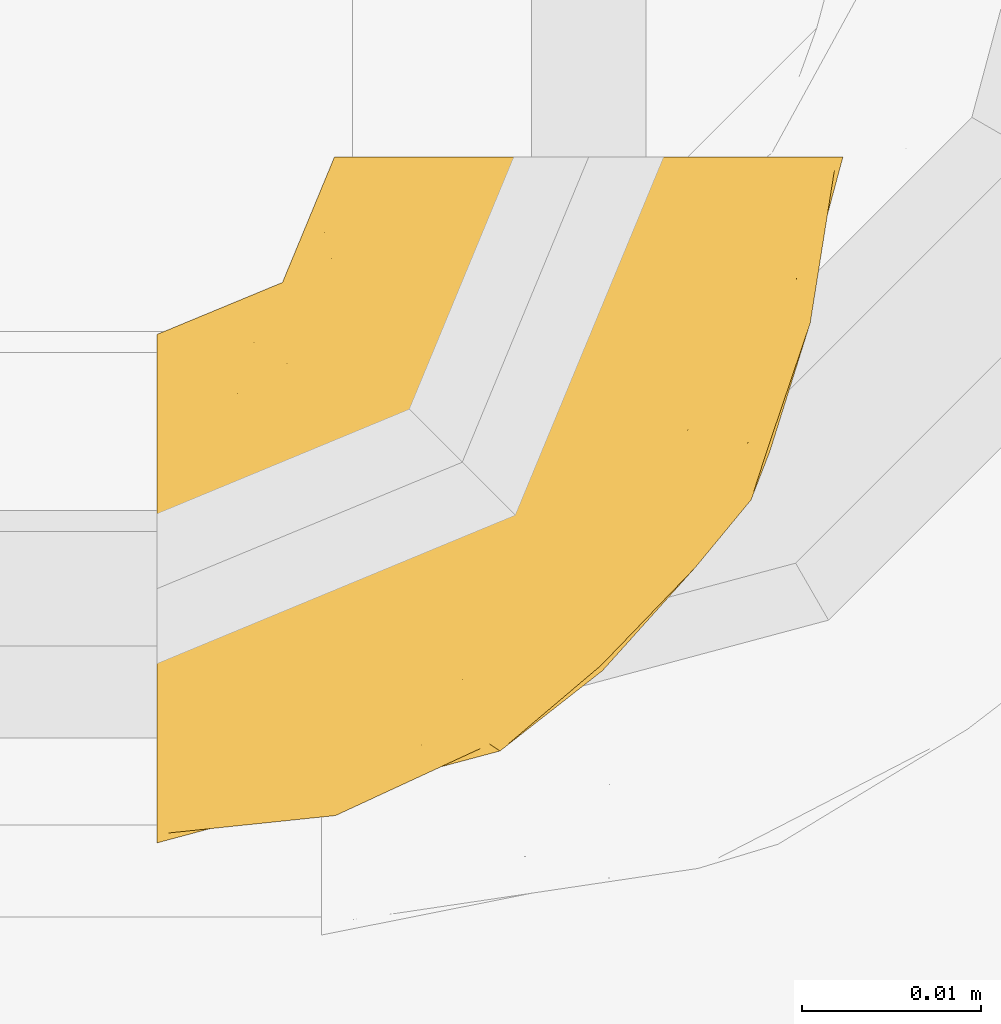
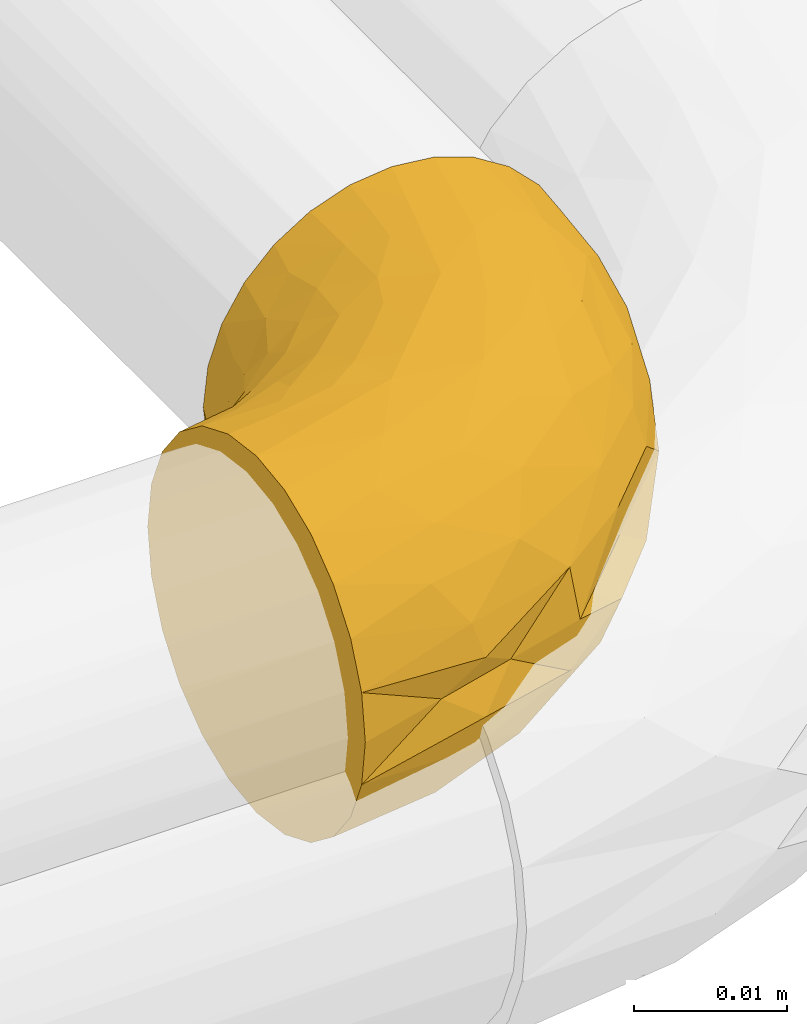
# One storey, part 13 of 30: 1 covering.
"""IFC2X3 building model written with IfcOpenShell, lengths in metres."""

from ifc_helpers import new_model, entity, si_unit, converted_unit, derived_unit, direction, frame, origin, place, context, subcontext, project, spatial, faceted_brep, material, type_object, element, save


model = new_model("IFC2X3")

# Units and contexts
model_context = context("Model", 3, precision=1e-05, world=origin(), true_north=direction((6.123031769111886e-17, 1.0)))
body_context = subcontext(model_context, "Body", "Model", "MODEL_VIEW")
ifc_project = project(units=[si_unit("LENGTHUNIT", "METRE"), si_unit("AREAUNIT", "SQUARE_METRE"), si_unit("VOLUMEUNIT", "CUBIC_METRE"), converted_unit("PLANEANGLEUNIT", "DEGREE", entity("IfcPlaneAngleMeasure", 0.017453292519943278), si_unit("PLANEANGLEUNIT", "RADIAN"), dimensions=[0, 0, 0, 0, 0, 0, 0]), si_unit("MASSUNIT", "GRAM", prefix="KILO"), derived_unit("MASSDENSITYUNIT", [(si_unit("MASSUNIT", "GRAM", prefix="KILO"), 1), (si_unit("LENGTHUNIT", "METRE"), -3)]), derived_unit("IONCONCENTRATIONUNIT", [(si_unit("MASSUNIT", "GRAM", prefix="KILO"), 1), (si_unit("LENGTHUNIT", "METRE"), -3)]), derived_unit("MOMENTOFINERTIAUNIT", [(si_unit("LENGTHUNIT", "METRE"), 4)]), si_unit("TIMEUNIT", "SECOND"), si_unit("FREQUENCYUNIT", "HERTZ"), si_unit("THERMODYNAMICTEMPERATUREUNIT", "DEGREE_CELSIUS"), derived_unit("THERMALTRANSMITTANCEUNIT", [(si_unit("MASSUNIT", "GRAM", prefix="KILO"), 1), (si_unit("THERMODYNAMICTEMPERATUREUNIT", "KELVIN"), -1), (si_unit("TIMEUNIT", "SECOND"), -3)]), derived_unit("THERMALCONDUCTANCEUNIT", [(si_unit("MASSUNIT", "GRAM", prefix="KILO"), 1), (si_unit("THERMODYNAMICTEMPERATUREUNIT", "KELVIN"), -1), (si_unit("TIMEUNIT", "SECOND"), -3), (si_unit("LENGTHUNIT", "METRE"), 1)]), derived_unit("VOLUMETRICFLOWRATEUNIT", [(si_unit("LENGTHUNIT", "METRE", prefix="DECI"), 3), (si_unit("TIMEUNIT", "SECOND"), -1)]), derived_unit("MASSFLOWRATEUNIT", [(si_unit("MASSUNIT", "GRAM", prefix="KILO"), 1), (si_unit("TIMEUNIT", "SECOND"), -1)]), derived_unit("ROTATIONALFREQUENCYUNIT", [(si_unit("TIMEUNIT", "SECOND"), -1)]), si_unit("ELECTRICCURRENTUNIT", "AMPERE"), si_unit("ELECTRICVOLTAGEUNIT", "VOLT"), si_unit("POWERUNIT", "WATT"), si_unit("FORCEUNIT", "NEWTON", prefix="KILO"), si_unit("ILLUMINANCEUNIT", "LUX"), si_unit("LUMINOUSFLUXUNIT", "LUMEN"), si_unit("LUMINOUSINTENSITYUNIT", "CANDELA"), si_unit("ENERGYUNIT", "JOULE"), derived_unit("USERDEFINED", [(si_unit("MASSUNIT", "GRAM", prefix="KILO"), -1), (si_unit("LENGTHUNIT", "METRE"), -2), (si_unit("TIMEUNIT", "SECOND"), 3), (si_unit("LUMINOUSFLUXUNIT", "LUMEN"), 1)]), derived_unit("USERDEFINED", [(si_unit("MASSUNIT", "GRAM", prefix="KILO"), 1), (si_unit("TIMEUNIT", "SECOND"), -3), (si_unit("LENGTHUNIT", "METRE"), 3), (si_unit("ELECTRICCURRENTUNIT", "AMPERE"), -2)]), derived_unit("SOUNDPOWERUNIT", [(si_unit("MASSUNIT", "GRAM", prefix="KILO"), 1), (si_unit("TIMEUNIT", "SECOND"), -3), (si_unit("LENGTHUNIT", "METRE"), 2)]), derived_unit("SOUNDPRESSUREUNIT", [(si_unit("MASSUNIT", "GRAM", prefix="KILO"), 1), (si_unit("LENGTHUNIT", "METRE"), -1), (si_unit("TIMEUNIT", "SECOND"), -2)]), derived_unit("LINEARVELOCITYUNIT", [(si_unit("LENGTHUNIT", "METRE"), 1), (si_unit("TIMEUNIT", "SECOND"), -1)]), si_unit("PRESSUREUNIT", "PASCAL"), derived_unit("USERDEFINED", [(si_unit("MASSUNIT", "GRAM", prefix="KILO"), 1), (si_unit("LENGTHUNIT", "METRE"), -2), (si_unit("TIMEUNIT", "SECOND"), -2)]), derived_unit("LINEARFORCEUNIT", [(si_unit("MASSUNIT", "GRAM", prefix="KILO"), 1), (si_unit("TIMEUNIT", "SECOND"), -2)]), derived_unit("PLANARFORCEUNIT", [(si_unit("MASSUNIT", "GRAM", prefix="KILO"), 1), (si_unit("LENGTHUNIT", "METRE"), -1), (si_unit("TIMEUNIT", "SECOND"), -2)]), derived_unit("SPECIFICHEATCAPACITYUNIT", [(si_unit("THERMODYNAMICTEMPERATUREUNIT", "KELVIN"), -1), (si_unit("LENGTHUNIT", "METRE"), 2), (si_unit("TIMEUNIT", "SECOND"), -2)]), derived_unit("HEATFLUXDENSITYUNIT", [(si_unit("MASSUNIT", "GRAM", prefix="KILO"), 1), (si_unit("TIMEUNIT", "SECOND"), -3)]), derived_unit("HEATINGVALUEUNIT", [(si_unit("LENGTHUNIT", "METRE"), 2), (si_unit("TIMEUNIT", "SECOND"), -2)]), derived_unit("VAPORPERMEABILITYUNIT", [(si_unit("LENGTHUNIT", "METRE"), -1), (si_unit("TIMEUNIT", "SECOND"), 1)]), derived_unit("DYNAMICVISCOSITYUNIT", [(si_unit("MASSUNIT", "GRAM", prefix="KILO"), 1), (si_unit("TIMEUNIT", "SECOND"), -1), (si_unit("LENGTHUNIT", "METRE"), -1)]), derived_unit("THERMALEXPANSIONCOEFFICIENTUNIT", [(si_unit("THERMODYNAMICTEMPERATUREUNIT", "KELVIN"), -1)]), derived_unit("MODULUSOFELASTICITYUNIT", [(si_unit("MASSUNIT", "GRAM", prefix="KILO"), 1), (si_unit("LENGTHUNIT", "METRE"), -1), (si_unit("TIMEUNIT", "SECOND"), -2)]), derived_unit("ISOTHERMALMOISTURECAPACITYUNIT", [(si_unit("MASSUNIT", "GRAM", prefix="KILO"), -1), (si_unit("LENGTHUNIT", "METRE"), 3)]), derived_unit("MOISTUREDIFFUSIVITYUNIT", [(si_unit("TIMEUNIT", "SECOND"), -1), (si_unit("LENGTHUNIT", "METRE"), 2)]), derived_unit("MASSPERLENGTHUNIT", [(si_unit("MASSUNIT", "GRAM", prefix="KILO"), 1), (si_unit("LENGTHUNIT", "METRE"), -1)]), derived_unit("THERMALRESISTANCEUNIT", [(si_unit("MASSUNIT", "GRAM", prefix="KILO"), -1), (si_unit("TIMEUNIT", "SECOND"), 3), (si_unit("THERMODYNAMICTEMPERATUREUNIT", "KELVIN"), 1)]), derived_unit("ACCELERATIONUNIT", [(si_unit("LENGTHUNIT", "METRE"), 1), (si_unit("TIMEUNIT", "SECOND"), -2)]), derived_unit("ANGULARVELOCITYUNIT", [(si_unit("TIMEUNIT", "SECOND"), -1), (si_unit("PLANEANGLEUNIT", "RADIAN"), 1)]), derived_unit("LINEARSTIFFNESSUNIT", [(si_unit("MASSUNIT", "GRAM", prefix="KILO"), 1), (si_unit("TIMEUNIT", "SECOND"), -2)]), derived_unit("WARPINGCONSTANTUNIT", [(si_unit("LENGTHUNIT", "METRE"), 6)]), derived_unit("LINEARMOMENTUNIT", [(si_unit("MASSUNIT", "GRAM", prefix="KILO"), 1), (si_unit("LENGTHUNIT", "METRE"), 1), (si_unit("TIMEUNIT", "SECOND"), -2)]), derived_unit("TORQUEUNIT", [(si_unit("MASSUNIT", "GRAM", prefix="KILO"), 1), (si_unit("LENGTHUNIT", "METRE"), 2), (si_unit("TIMEUNIT", "SECOND"), -2)])], contexts=[model_context])

# Site, building, storey
site_placement = place(None, origin())
site = spatial("IfcSite", under=ifc_project, at=site_placement, Name="Default", CompositionType="ELEMENT")
building_placement = place(site_placement, origin())
building = spatial("IfcBuilding", under=site, at=building_placement, CompositionType="ELEMENT")
storey_placement = place(building_placement, origin())
storey = spatial("IfcBuildingStorey", under=building, at=storey_placement, Name="Niveau 0", CompositionType="ELEMENT", Elevation=-1.949160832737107e-14)

# Covering
ifc_material = material(Name="Matériau du rendu 255-255-255")
covering_type = type_object("IfcCoveringType", Name="Isolation des canalisations:Par défaut", PredefinedType="INSULATION")
covering_placement = place(storey_placement, frame((-19.88885967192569, 1.3612578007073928, -0.41579527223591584)))
element("IfcCovering", 1, at=covering_placement, inside=storey, type_object=covering_type, material=ifc_material, Name="Isolation des canalisations:Par défaut", ObjectType="Isolation des canalisations:Par défaut", PredefinedType="INSULATION", context=body_context, shape_type="Brep", body=[
    faceted_brep([(0.02885664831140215, 0.03989527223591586, 0.029638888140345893), (0.031858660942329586, 0.03989527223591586, 0.028587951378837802), (0.03455099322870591, 0.03989527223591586, 0.02689555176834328), (0.03679892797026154, 0.03989527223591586, 0.02464675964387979), (0.03849001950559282, 0.03989527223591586, 0.021954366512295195), (0.039539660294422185, 0.03989527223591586, 0.018953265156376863), (0.03989527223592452, 0.03989527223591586, 0.015795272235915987), (0.03953888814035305, 0.03989527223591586, 0.012633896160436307), (0.038487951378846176, 0.03989527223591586, 0.009631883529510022), (0.036795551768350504, 0.03989527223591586, 0.006939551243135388), (0.0345467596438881, 0.03989527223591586, 0.00469161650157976), (0.03185436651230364, 0.03989527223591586, 0.0030005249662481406), (0.028853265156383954, 0.03989527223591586, 0.001950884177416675), (0.025695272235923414, 0.03989527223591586, 0.0015952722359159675), (0.022533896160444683, 0.03989527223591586, 0.001951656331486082), (0.019531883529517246, 0.03989527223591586, 0.0030025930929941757), (0.016839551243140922, 0.03989527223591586, 0.0046949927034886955), (0.014591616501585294, 0.03989527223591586, 0.006943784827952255), (0.01290052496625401, 0.03989527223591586, 0.009636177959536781), (0.011850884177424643, 0.03989527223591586, 0.012637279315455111), (0.011495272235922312, 0.03989527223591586, 0.015795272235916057), (0.01185165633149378, 0.03989527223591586, 0.01895664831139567), (0.012902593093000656, 0.03989527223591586, 0.021958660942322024), (0.014594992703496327, 0.03989527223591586, 0.024650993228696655), (0.016843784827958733, 0.03989527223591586, 0.026898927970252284), (0.019536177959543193, 0.03989527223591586, 0.028590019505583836), (0.02253727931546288, 0.03989527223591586, 0.029639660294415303), (0.025695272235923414, 0.03989527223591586, 0.02999527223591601), (0.0015952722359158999, 0.029511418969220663, 0.012120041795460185), (0.0015952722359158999, 0.028092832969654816, 0.008695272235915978), (0.0015952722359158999, 0.025836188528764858, 0.005754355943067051), (0.0015952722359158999, 0.02289527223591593, 0.0034977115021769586), (0.0015952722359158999, 0.019470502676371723, 0.002079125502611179), (0.0015952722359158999, 0.01579527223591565, 0.0015952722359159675), (0.0015952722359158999, 0.012120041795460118, 0.002079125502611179), (0.0015952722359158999, 0.00869527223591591, 0.0034977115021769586), (0.0015952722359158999, 0.005754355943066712, 0.005754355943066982), (0.0015952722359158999, 0.0034977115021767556, 0.008695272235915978), (0.0015952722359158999, 0.0020791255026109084, 0.012120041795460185), (0.0015952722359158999, 0.0015952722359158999, 0.015795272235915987), (0.0015952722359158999, 0.0020791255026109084, 0.019470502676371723), (0.0015952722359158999, 0.0034977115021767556, 0.02289527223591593), (0.0015952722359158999, 0.005754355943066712, 0.025836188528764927), (0.0015952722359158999, 0.00869527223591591, 0.02809283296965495), (0.0015952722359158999, 0.012120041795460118, 0.02951141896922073), (0.0015952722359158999, 0.01579527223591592, 0.02999527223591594), (0.0015952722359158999, 0.019470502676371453, 0.02951141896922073), (0.0015952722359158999, 0.02289527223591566, 0.028092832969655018), (0.0015952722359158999, 0.025836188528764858, 0.025836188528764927), (0.0015952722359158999, 0.028092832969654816, 0.022895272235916), (0.0015952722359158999, 0.029511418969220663, 0.019470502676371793), (0.0015952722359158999, 0.02999527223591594, 0.015795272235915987), (0.02704820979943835, 0.031466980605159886, 0.02973387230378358), (0.01155834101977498, 0.0031203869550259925, 0.018166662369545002), (0.008375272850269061, 0.003411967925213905, 0.015795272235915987), (0.01456027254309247, 0.005069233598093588, 0.015795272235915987), (0.014682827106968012, 0.011886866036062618, 0.028252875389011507), (0.010357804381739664, 0.007682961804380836, 0.026540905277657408), (0.01863458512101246, 0.010723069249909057, 0.026180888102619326), (0.024053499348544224, 0.024625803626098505, 0.029662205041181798), (0.022466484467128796, 0.027845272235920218, 0.02999527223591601), (0.0380723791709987, 0.030629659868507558, 0.020088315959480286), (0.03458658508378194, 0.02392756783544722, 0.022434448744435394), (0.03564178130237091, 0.02345906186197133, 0.019507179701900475), (0.020408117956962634, 0.018688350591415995, 0.029344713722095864), (0.018055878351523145, 0.023434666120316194, 0.02999527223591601), (0.01636472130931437, 0.0070691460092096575, 0.023549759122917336), (0.010797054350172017, 0.0036578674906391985, 0.02080360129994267), (0.020172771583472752, 0.0071057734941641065, 0.019923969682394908), (0.0074916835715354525, 0.010332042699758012, 0.02864407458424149), (0.010237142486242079, 0.014222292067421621, 0.029677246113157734), (0.02558294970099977, 0.012450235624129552, 0.02280278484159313), (0.013645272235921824, 0.019024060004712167, 0.02999527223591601), (0.010976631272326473, 0.0183089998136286, 0.02999527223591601), (0.008307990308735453, 0.017593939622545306, 0.02999527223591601), (0.007620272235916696, 0.017409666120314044, 0.02999527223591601), (0.0049516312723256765, 0.01669460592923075, 0.02999527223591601), (0.025175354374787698, 0.02208875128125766, 0.02890854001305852), (0.021556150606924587, 0.01575171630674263, 0.028018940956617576), (0.026742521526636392, 0.020432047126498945, 0.027726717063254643), (0.03307723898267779, 0.03292603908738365, 0.027427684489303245), (0.034991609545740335, 0.030551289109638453, 0.025267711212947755), (0.0372977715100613, 0.03305521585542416, 0.02297391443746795), (0.03642131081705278, 0.02693027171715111, 0.015795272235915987), (0.03039575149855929, 0.03354339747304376, 0.0289314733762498), (0.02873854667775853, 0.026409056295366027, 0.028565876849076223), (0.008485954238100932, 0.004907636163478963, 0.024042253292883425), (0.02479593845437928, 0.03653891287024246, 0.02999527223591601), (0.02408087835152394, 0.0338702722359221, 0.02999527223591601), (0.023896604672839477, 0.033182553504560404, 0.02999527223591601), (0.023181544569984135, 0.03051391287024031, 0.02999527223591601), (0.0312190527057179, 0.024636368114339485, 0.02659257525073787), (0.030558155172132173, 0.019588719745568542, 0.024430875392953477), (0.03807857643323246, 0.03311527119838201, 0.015795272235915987), (0.025554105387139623, 0.016105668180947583, 0.02619996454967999), (0.02775465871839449, 0.01373588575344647, 0.015795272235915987), (0.03476404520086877, 0.02074527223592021, 0.015795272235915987), (0.031643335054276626, 0.016963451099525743, 0.019534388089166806), (0.02074527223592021, 0.0067264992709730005, 0.015795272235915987), (0.02639706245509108, 0.011513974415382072, 0.019908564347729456), (0.031308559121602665, 0.01814369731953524, 0.02209913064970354), (0.01585057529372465, 0.02122936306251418, 0.02999527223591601), (0.02026118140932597, 0.025639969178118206, 0.02999527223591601), (0.019055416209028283, 0.030232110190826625, 0.029377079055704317), (0.01941299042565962, 0.03504783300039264, 0.0288294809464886), (0.0163241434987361, 0.033347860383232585, 0.027539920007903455), (0.01008373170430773, 0.0206006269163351, 0.029670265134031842), (0.005334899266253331, 0.01990237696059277, 0.029488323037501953), (0.006124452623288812, 0.026696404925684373, 0.025730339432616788), (0.008851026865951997, 0.028391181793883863, 0.02535629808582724), (0.00699704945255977, 0.02955694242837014, 0.022650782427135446), (0.011972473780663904, 0.025886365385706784, 0.028333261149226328), (0.012855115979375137, 0.02249376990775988, 0.029588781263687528), (0.015604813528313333, 0.025039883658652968, 0.02950996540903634), (0.003990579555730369, 0.028891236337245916, 0.021863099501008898), (0.006747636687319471, 0.021581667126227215, 0.029057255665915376), (0.00477823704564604, 0.024031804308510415, 0.027581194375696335), (0.007441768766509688, 0.031378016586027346, 0.01926640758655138), (0.008595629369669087, 0.0328949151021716, 0.015795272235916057), (0.005095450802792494, 0.03144509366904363, 0.015795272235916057), (0.009650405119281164, 0.03317880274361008, 0.01983888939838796), (0.022275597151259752, 0.036552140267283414, 0.029641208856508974), (0.010954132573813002, 0.03568980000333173, 0.018973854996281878), (0.011348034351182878, 0.03423455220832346, 0.02189433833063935), (0.012210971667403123, 0.03722732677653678, 0.021143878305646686), (0.01382361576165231, 0.03578073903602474, 0.024527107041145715), (0.01204534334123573, 0.03241002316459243, 0.024465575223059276), (0.009717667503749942, 0.031437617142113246, 0.022761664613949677), (0.01625427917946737, 0.03692594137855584, 0.026659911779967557), (0.021842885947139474, 0.03340468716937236, 0.02970888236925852), (0.004526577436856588, 0.030103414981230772, 0.018798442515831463), (0.010045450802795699, 0.036395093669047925, 0.015795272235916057), (0.015405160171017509, 0.028851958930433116, 0.028462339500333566), (0.01410895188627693, 0.031813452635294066, 0.0266090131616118), (0.008820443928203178, 0.025603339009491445, 0.02746848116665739), (0.008460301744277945, 0.02326573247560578, 0.028613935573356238), (0.01778048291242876, 0.027264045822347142, 0.02953936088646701), (0.011880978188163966, 0.029734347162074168, 0.026220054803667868), (0.009715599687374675, 0.031438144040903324, 0.008832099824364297), (0.007441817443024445, 0.03137796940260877, 0.012323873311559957), (0.009649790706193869, 0.03318033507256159, 0.011756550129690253), (0.024795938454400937, 0.036538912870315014, 0.0015952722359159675), (0.0048062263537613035, 0.02987116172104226, 0.011626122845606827), (0.0109766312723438, 0.01830899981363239, 0.0015952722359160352), (0.010083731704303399, 0.020600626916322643, 0.0019202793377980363), (0.013645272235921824, 0.019024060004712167, 0.0015952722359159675), (0.004199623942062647, 0.028677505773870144, 0.009216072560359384), (0.005334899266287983, 0.01990237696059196, 0.002102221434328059), (0.0049516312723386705, 0.016694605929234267, 0.0015952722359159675), (0.01187705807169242, 0.02973849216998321, 0.005375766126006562), (0.015398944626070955, 0.028856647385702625, 0.003132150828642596), (0.011966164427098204, 0.025891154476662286, 0.0032613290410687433), (0.008460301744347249, 0.023265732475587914, 0.002976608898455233), (0.006747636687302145, 0.02158166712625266, 0.002533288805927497), (0.0047782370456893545, 0.024031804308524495, 0.0040093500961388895), (0.006123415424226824, 0.026696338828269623, 0.005860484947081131), (0.008848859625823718, 0.028391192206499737, 0.006235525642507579), (0.006993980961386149, 0.029555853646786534, 0.008940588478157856), (0.012209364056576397, 0.03722818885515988, 0.010451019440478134), (0.01095411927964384, 0.03569117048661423, 0.012619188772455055), (0.019407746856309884, 0.03504891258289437, 0.0027633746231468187), (0.022272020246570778, 0.036550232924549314, 0.0019500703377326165), (0.013820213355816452, 0.03578262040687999, 0.007068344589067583), (0.02408087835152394, 0.0338702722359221, 0.0015952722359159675), (0.02389660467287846, 0.03318255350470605, 0.0015952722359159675), (0.01905004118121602, 0.030228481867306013, 0.0022143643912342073), (0.016318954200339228, 0.03335039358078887, 0.004054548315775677), (0.016249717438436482, 0.036927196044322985, 0.004934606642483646), (0.01134650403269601, 0.03423654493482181, 0.00970109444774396), (0.01204243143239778, 0.03241284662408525, 0.0071301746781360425), (0.008816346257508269, 0.025602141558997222, 0.004122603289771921), (0.012859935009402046, 0.02249765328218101, 0.0020019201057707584), (0.02318154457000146, 0.030513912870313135, 0.0015952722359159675), (0.022466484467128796, 0.027845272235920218, 0.0015952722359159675), (0.021177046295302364, 0.031866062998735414, 0.0019021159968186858), (0.01410454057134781, 0.03181664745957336, 0.004986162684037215), (0.017767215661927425, 0.02727960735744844, 0.002056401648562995), (0.018055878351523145, 0.023434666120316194, 0.0015952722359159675), (0.01560782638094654, 0.025054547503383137, 0.0020828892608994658), (0.02026118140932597, 0.025639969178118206, 0.0015952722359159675), (0.01585057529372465, 0.02122936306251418, 0.0015952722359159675), (0.008307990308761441, 0.017593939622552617, 0.0015952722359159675), (0.007620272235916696, 0.017409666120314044, 0.0015952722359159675), (0.010356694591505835, 0.00768274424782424, 0.005049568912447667), (0.014679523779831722, 0.011885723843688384, 0.003337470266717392), (0.018634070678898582, 0.010723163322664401, 0.005409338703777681), (0.0330731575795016, 0.032926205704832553, 0.0041600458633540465), (0.010237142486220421, 0.014222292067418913, 0.0019132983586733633), (0.025592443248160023, 0.012458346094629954, 0.008788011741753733), (0.03164297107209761, 0.0169638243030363, 0.01205426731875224), (0.02646632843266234, 0.011208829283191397, 0.012737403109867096), (0.03055609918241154, 0.01959090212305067, 0.0071558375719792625), (0.031215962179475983, 0.024638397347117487, 0.00499482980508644), (0.034988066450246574, 0.030551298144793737, 0.0063190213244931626), (0.00748967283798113, 0.010331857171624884, 0.0029463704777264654), (0.010798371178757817, 0.0036581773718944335, 0.010787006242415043), (0.016368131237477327, 0.007070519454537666, 0.008041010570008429), (0.020173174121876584, 0.007105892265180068, 0.011666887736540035), (0.02873529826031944, 0.026410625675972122, 0.0030229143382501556), (0.02498476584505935, 0.01938921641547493, 0.003443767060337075), (0.024053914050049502, 0.02462661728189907, 0.001928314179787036), (0.03807109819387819, 0.03062937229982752, 0.011498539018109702), (0.027046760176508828, 0.031468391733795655, 0.001856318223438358), (0.008487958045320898, 0.004907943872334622, 0.007548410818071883), (0.037295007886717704, 0.03305363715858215, 0.008612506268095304), (0.034584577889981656, 0.023928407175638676, 0.009151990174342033), (0.02041042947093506, 0.018689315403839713, 0.0022460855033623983), (0.02000326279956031, 0.015393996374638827, 0.003193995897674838), (0.011558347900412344, 0.003120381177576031, 0.013423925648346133), (0.025551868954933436, 0.016108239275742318, 0.005387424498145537), (0.030392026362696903, 0.033543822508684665, 0.0026575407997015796), (0.03582275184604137, 0.02346964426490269, 0.012727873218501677), (0.03130512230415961, 0.01814165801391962, 0.00948824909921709)], [[[0, 1, 2, 3, 4, 5, 6, 7, 8, 9, 10, 11, 12, 13, 14, 15, 16, 17, 18, 19, 20, 21, 22, 23, 24, 25, 26, 27]], [[28, 29, 30, 31, 32, 33, 34, 35, 36, 37, 38, 39, 40, 41, 42, 43, 44, 45, 46, 47, 48, 49, 50, 51]], [[27, 52, 0]], [[53, 54, 55]], [[56, 57, 58]], [[59, 52, 60]], [[61, 62, 63]], [[64, 59, 65]], [[66, 67, 68]], [[57, 56, 69]], [[70, 45, 44]], [[43, 42, 57]], [[66, 68, 71]], [[70, 72, 73, 74, 75, 76, 45]], [[44, 43, 69]], [[77, 78, 79]], [[80, 81, 2]], [[41, 40, 67]], [[82, 62, 61]], [[2, 81, 3]], [[63, 83, 61]], [[61, 5, 4]], [[84, 52, 85]], [[40, 39, 54]], [[58, 78, 56]], [[66, 86, 67]], [[86, 42, 41]], [[52, 27, 87, 88, 89, 90, 60]], [[91, 92, 81]], [[70, 64, 72]], [[80, 2, 1]], [[93, 5, 61]], [[1, 0, 84]], [[93, 6, 5]], [[81, 80, 91]], [[4, 82, 61]], [[54, 53, 40]], [[82, 4, 3]], [[68, 67, 53]], [[86, 57, 42]], [[58, 94, 78]], [[69, 70, 44]], [[64, 70, 56]], [[78, 64, 56]], [[85, 52, 59]], [[3, 81, 82]], [[62, 82, 81]], [[84, 80, 1]], [[91, 80, 85]], [[79, 91, 85]], [[91, 94, 92]], [[95, 96, 97]], [[94, 58, 71]], [[98, 95, 99]], [[99, 95, 97]], [[92, 62, 81]], [[92, 100, 62]], [[68, 99, 71]], [[52, 84, 0]], [[80, 84, 85]], [[67, 86, 41]], [[57, 86, 66]], [[57, 66, 58]], [[71, 58, 66]], [[64, 65, 101, 72]], [[77, 79, 85]], [[59, 60, 102, 65]], [[94, 71, 92]], [[71, 99, 100]], [[68, 53, 55]], [[98, 68, 55]], [[40, 53, 67]], [[71, 100, 92]], [[63, 100, 97]], [[57, 69, 43]], [[70, 69, 56]], [[100, 63, 62]], [[83, 93, 61]], [[79, 78, 94]], [[91, 79, 94]], [[85, 59, 77]], [[59, 64, 77]], [[78, 77, 64]], [[99, 68, 98]], [[100, 99, 97]], [[97, 96, 63]], [[83, 63, 96]], [[103, 104, 105]], [[72, 106, 73]], [[47, 46, 107]], [[107, 46, 76]], [[108, 109, 110]], [[111, 112, 113]], [[108, 110, 114]], [[47, 115, 116]], [[117, 118, 119]], [[108, 49, 48]], [[118, 117, 120]], [[25, 121, 26]], [[49, 114, 50]], [[122, 123, 124]], [[124, 125, 22]], [[126, 123, 127]], [[128, 104, 24]], [[129, 103, 60]], [[24, 104, 25]], [[27, 26, 87]], [[123, 120, 127]], [[130, 117, 119]], [[107, 76, 75, 74, 73]], [[131, 118, 122, 20]], [[105, 132, 103]], [[21, 124, 22]], [[23, 22, 125]], [[121, 87, 26]], [[126, 133, 125]], [[130, 110, 117]], [[123, 122, 120]], [[128, 24, 23]], [[50, 130, 51]], [[128, 125, 105]], [[129, 121, 104]], [[116, 108, 48]], [[134, 135, 111]], [[135, 112, 111]], [[127, 120, 117]], [[21, 20, 122]], [[125, 124, 123]], [[21, 122, 124]], [[105, 133, 132]], [[136, 103, 132]], [[111, 132, 137]], [[113, 136, 132]], [[111, 137, 109]], [[112, 106, 72]], [[118, 120, 122]], [[127, 117, 110]], [[109, 127, 110]], [[126, 127, 137]], [[133, 126, 137]], [[125, 123, 126]], [[132, 133, 137]], [[125, 133, 105]], [[125, 128, 23]], [[104, 128, 105]], [[113, 101, 65]], [[101, 113, 112]], [[102, 136, 65]], [[132, 111, 113]], [[103, 102, 60]], [[104, 121, 25]], [[121, 89, 88, 87]], [[129, 60, 90, 89]], [[121, 129, 89]], [[115, 107, 106]], [[106, 112, 135]], [[73, 106, 107]], [[106, 135, 115]], [[116, 115, 135]], [[47, 107, 115]], [[116, 135, 134]], [[47, 116, 48]], [[51, 130, 119]], [[130, 50, 114]], [[112, 72, 101]], [[108, 114, 49]], [[130, 114, 110]], [[65, 136, 113]], [[102, 103, 136]], [[46, 45, 76]], [[109, 108, 134]], [[127, 109, 137]], [[109, 134, 111]], [[116, 134, 108]], [[103, 129, 104]], [[138, 139, 140]], [[14, 13, 141]], [[119, 142, 51]], [[139, 142, 119]], [[143, 144, 145]], [[142, 146, 28]], [[147, 148, 32]], [[149, 150, 151]], [[152, 153, 154]], [[118, 139, 119]], [[155, 29, 146]], [[138, 156, 157]], [[158, 159, 19]], [[157, 139, 138]], [[18, 158, 19]], [[160, 15, 161]], [[17, 162, 18]], [[161, 141, 163, 164]], [[160, 165, 166]], [[147, 32, 31]], [[17, 16, 167]], [[168, 158, 162]], [[160, 166, 167]], [[149, 138, 169]], [[170, 156, 151]], [[151, 171, 152]], [[172, 173, 174, 164]], [[14, 161, 15]], [[155, 30, 29]], [[160, 16, 15]], [[19, 159, 20]], [[118, 131, 20, 159]], [[169, 175, 149]], [[167, 162, 17]], [[174, 165, 160]], [[156, 155, 157]], [[155, 170, 154]], [[150, 166, 165]], [[118, 159, 140]], [[142, 139, 157]], [[162, 158, 18]], [[159, 158, 168]], [[159, 168, 140]], [[176, 177, 178]], [[150, 149, 175]], [[176, 178, 150]], [[171, 145, 144]], [[165, 179, 176]], [[170, 151, 152]], [[140, 168, 138]], [[118, 140, 139]], [[169, 138, 168]], [[156, 138, 149]], [[168, 162, 169]], [[175, 162, 166]], [[162, 175, 169]], [[150, 175, 166]], [[160, 167, 16]], [[162, 167, 166]], [[178, 171, 151]], [[178, 180, 171]], [[151, 150, 178]], [[165, 173, 179]], [[176, 150, 165]], [[141, 161, 14]], [[174, 173, 165]], [[174, 161, 164]], [[152, 144, 153]], [[147, 143, 181, 182, 148]], [[147, 153, 144]], [[147, 144, 143]], [[171, 144, 152]], [[147, 31, 153]], [[154, 31, 30]], [[31, 154, 153]], [[155, 154, 30]], [[146, 142, 157]], [[142, 28, 51]], [[155, 146, 157]], [[28, 146, 29]], [[180, 178, 177]], [[180, 145, 171]], [[177, 176, 179]], [[148, 33, 32]], [[151, 156, 149]], [[154, 170, 152]], [[156, 170, 155]], [[161, 174, 160]], [[183, 184, 185]], [[10, 186, 11]], [[187, 33, 148, 182, 181, 143, 145]], [[188, 189, 190]], [[191, 192, 193]], [[34, 194, 35]], [[195, 38, 37]], [[195, 196, 197]], [[194, 183, 35]], [[54, 39, 38]], [[183, 36, 35]], [[98, 55, 197]], [[198, 199, 200]], [[8, 7, 201]], [[200, 173, 202]], [[203, 195, 37]], [[13, 12, 202]], [[36, 203, 37]], [[9, 193, 10]], [[204, 205, 193]], [[187, 206, 207]], [[193, 186, 10]], [[7, 6, 93]], [[55, 208, 197]], [[186, 192, 198]], [[201, 204, 8]], [[192, 199, 198]], [[192, 191, 209]], [[202, 173, 172, 164, 163, 141, 13]], [[7, 93, 201]], [[210, 202, 12]], [[204, 9, 8]], [[33, 187, 34]], [[11, 210, 12]], [[83, 96, 211]], [[207, 206, 199]], [[38, 195, 208]], [[207, 185, 184]], [[203, 183, 196]], [[206, 187, 145]], [[194, 187, 184]], [[206, 177, 200]], [[206, 200, 199]], [[205, 204, 201]], [[193, 9, 204]], [[192, 186, 193]], [[210, 186, 198]], [[191, 193, 205]], [[199, 192, 209]], [[196, 185, 188]], [[190, 98, 197]], [[197, 196, 188]], [[95, 189, 96]], [[211, 205, 201]], [[190, 189, 95]], [[212, 188, 191]], [[186, 210, 11]], [[202, 210, 198]], [[183, 203, 36]], [[195, 203, 196]], [[188, 185, 209]], [[196, 183, 185]], [[198, 200, 202]], [[212, 191, 205]], [[206, 145, 180, 177]], [[200, 177, 179, 173]], [[188, 209, 191]], [[38, 208, 54]], [[54, 208, 55]], [[197, 208, 195]], [[205, 189, 212]], [[188, 212, 189]], [[187, 194, 34]], [[183, 194, 184]], [[189, 211, 96]], [[201, 93, 83]], [[209, 185, 207]], [[207, 199, 209]], [[187, 207, 184]], [[98, 190, 95]], [[188, 190, 197]], [[205, 211, 189]], [[83, 211, 201]]]),
])

save(model, "model.ifc")
